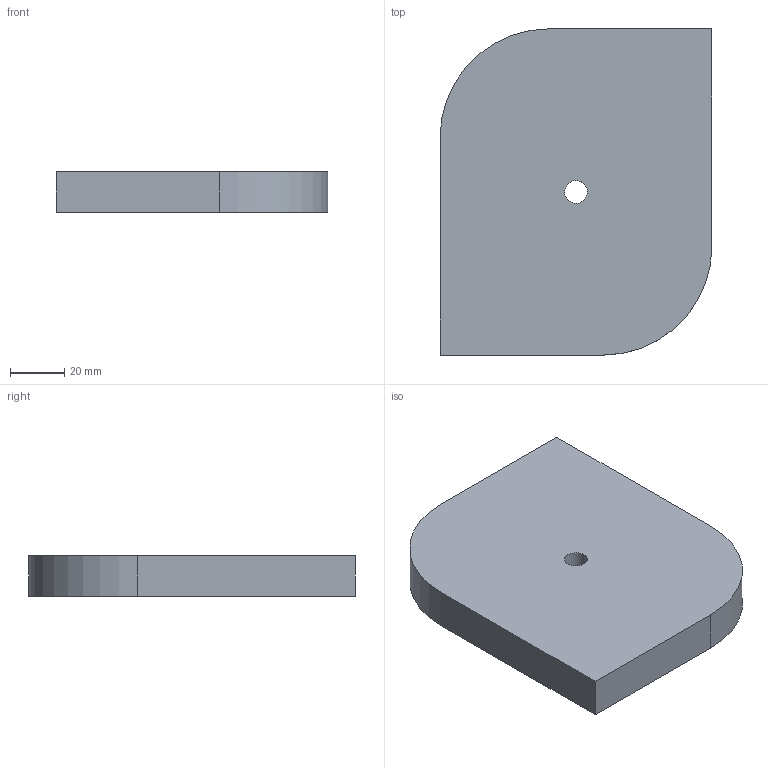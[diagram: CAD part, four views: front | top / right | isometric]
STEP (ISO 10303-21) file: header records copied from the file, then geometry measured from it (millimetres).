
FILE_DESCRIPTION(('CATIA V5 STEP Exchange'),'2;1');
FILE_NAME('C:\_Andres\UNIVERSIDAD\IQS\ASIGNATURAS\DAO\EXF\EXF-15161c\1original\Giménez_Álvarez-Sarandés_Ej01-plano_v10.stp','2016-03-04T14:59:44+00:00',('none'),('none'),'CATIA Version 5 Release 20 SP 1 (IN-10)','CATIA V5 STEP AP203','none');
FILE_SCHEMA(('CONFIG_CONTROL_DESIGN'));
Length unit declared in the file: millimetre
Products named in the file (1): Giménez_Álvarez-Sarandés_Ej01-plano_v10
Bounding box: 100 x 120 x 15 mm (x, y, z)
Volume: 168872.6 mm3; surface area: 28996 mm2
Topology: 1 solids, 1 shells, 10 faces, 24 edges, 16 vertices
Faces by surface type: plane 6, cylinder 4
Entity records: 333 total; most frequent: CARTESIAN_POINT 51, ORIENTED_EDGE 48, DIRECTION 44, EDGE_CURVE 24, AXIS2_PLACEMENT_3D 19, VECTOR 16, LINE 16, VERTEX_POINT 16
